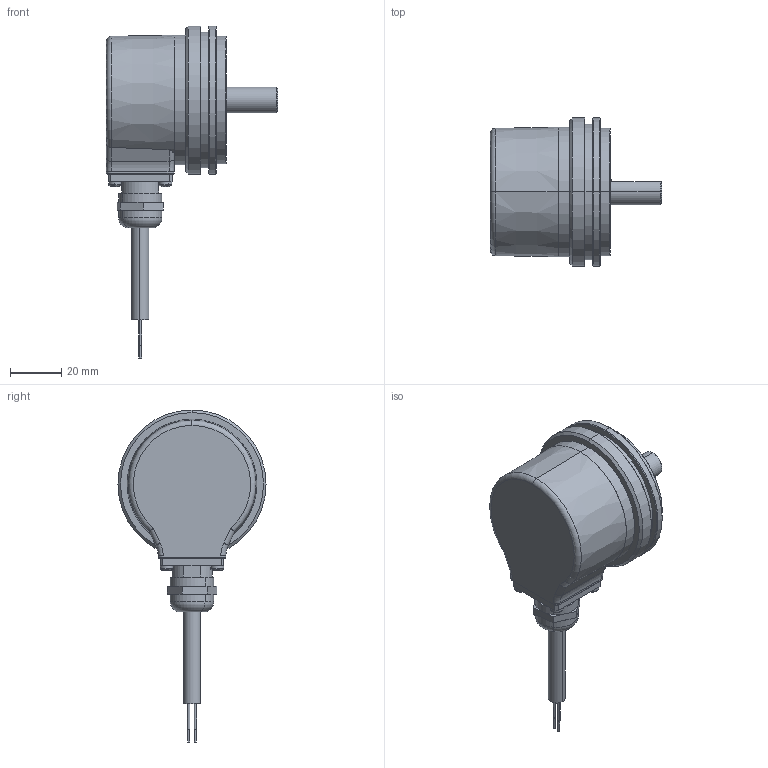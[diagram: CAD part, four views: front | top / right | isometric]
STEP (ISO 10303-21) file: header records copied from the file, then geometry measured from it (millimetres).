
FILE_DESCRIPTION (( 'STEP AP214' ), '1' );
FILE_NAME ('5000.B3X2.XXXX.STEP', '2009-04-21T10:16:26', ( 'admin' ), ( 'Fritz Kübler GmbH' ), 'SwSTEP 2.0', 'SolidWorks 2009', '' );
FILE_SCHEMA (( 'AUTOMOTIVE_DESIGN' ));
Length unit declared in the file: millimetre
Products named in the file (1): 5000.B3X2.XXXX
Bounding box: 67 x 58 x 130 mm (x, y, z)
Volume: 67545.4 mm3; surface area: 39340.6 mm2
Topology: 12 solids, 13 shells, 538 faces, 1266 edges, 767 vertices
Faces by surface type: plane 177, cylinder 165, cone 91, torus 63, sphere 32, bspline 10
Entity records: 22091 total; most frequent: CARTESIAN_POINT 3724, DIRECTION 2778, ORIENTED_EDGE 2400, EDGE_CURVE 1200, AXIS2_PLACEMENT_3D 1149, VERTEX_POINT 737, EDGE_LOOP 629, CIRCLE 620
